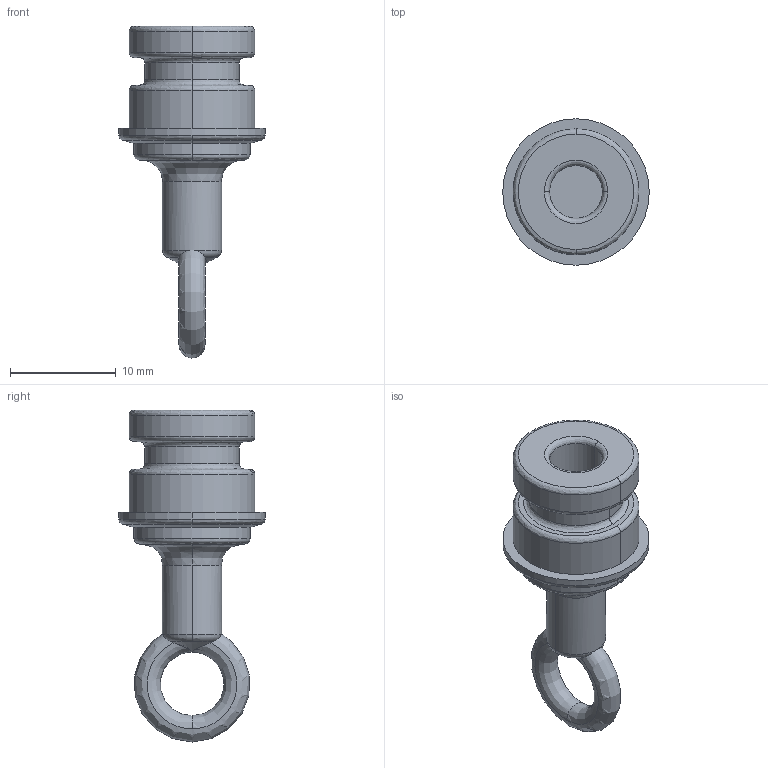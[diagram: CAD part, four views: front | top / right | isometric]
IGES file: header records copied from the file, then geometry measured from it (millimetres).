
Start section:  PTC IGES file: 00918034.igs
Global section: file name: 00918034.igs; native system: Creo Parametric by PTC Inc.; preprocessor: 2019344; author: ti; organization: Unknown; date: 20201118.151656; units: millimetre
Bounding box: 13.88 x 13.88 x 31.45 mm (x, y, z)
Surface area: 1273.8 mm2 (no closed solid volume)
Topology: 0 solids, 0 shells, 51 faces, 228 edges, 228 vertices
Faces by surface type: revolution 45, bspline 6
